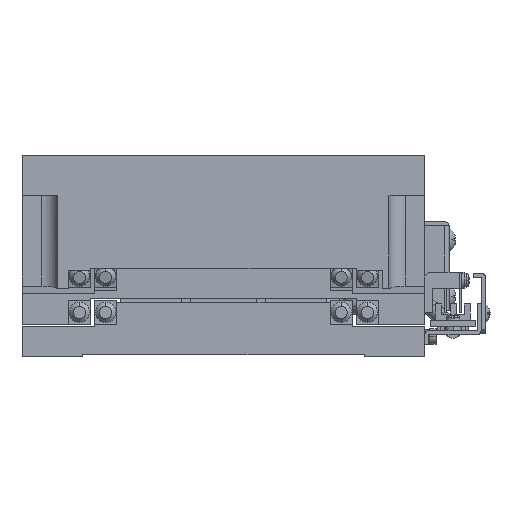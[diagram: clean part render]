
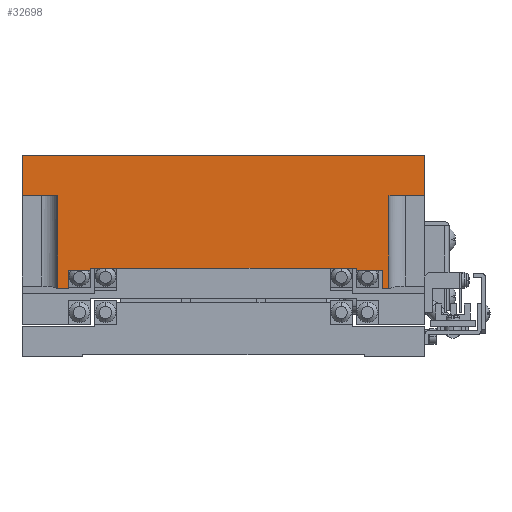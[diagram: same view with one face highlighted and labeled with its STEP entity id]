
A CAD part, left-side view. The second image highlights one B-rep face of the part: STEP entity #32698.
In plain terms, the highlighted planar face has unit normal (-1, 0, 0) as drawn and (1, 0, 0) by its records, which use the part's own axes.
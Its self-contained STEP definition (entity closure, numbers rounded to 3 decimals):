
#143 = VERTEX_POINT ( 'NONE', #65028 ) ;
#205 = LINE ( 'NONE', #43105, #29848 ) ;
#793 = ORIENTED_EDGE ( 'NONE', *, *, #67319, .T. ) ;
#835 = VECTOR ( 'NONE', #66033, 1000. ) ;
#1353 = CARTESIAN_POINT ( 'NONE',  ( 240.291, -72.774, 52.015 ) ) ;
#1777 = VERTEX_POINT ( 'NONE', #22031 ) ;
#2938 = VECTOR ( 'NONE', #28001, 1000. ) ;
#3276 = LINE ( 'NONE', #25787, #28404 ) ;
#3485 = LINE ( 'NONE', #61216, #835 ) ;
#4519 = CARTESIAN_POINT ( 'NONE',  ( 240.291, -66.274, 80. ) ) ;
#5428 = CARTESIAN_POINT ( 'NONE',  ( 240.291, -64.674, 47. ) ) ;
#5995 = ORIENTED_EDGE ( 'NONE', *, *, #62984, .F. ) ;
#7749 = EDGE_CURVE ( 'NONE', #19167, #25209, #3485, .T. ) ;
#8198 = VERTEX_POINT ( 'NONE', #24799 ) ;
#9121 = CARTESIAN_POINT ( 'NONE',  ( 240.291, -144.274, 51.5 ) ) ;
#9239 = EDGE_CURVE ( 'NONE', #8198, #38169, #3276, .T. ) ;
#10112 = LINE ( 'NONE', #16260, #60396 ) ;
#10698 = DIRECTION ( 'NONE',  ( 0., 0., -1. ) ) ;
#11026 = CARTESIAN_POINT ( 'NONE',  ( 240.291, -155.774, 70. ) ) ;
#11543 = DIRECTION ( 'NONE',  ( 0., -1., 0. ) ) ;
#11805 = EDGE_CURVE ( 'NONE', #37502, #34842, #31894, .T. ) ;
#13470 = ORIENTED_EDGE ( 'NONE', *, *, #28825, .T. ) ;
#14300 = VECTOR ( 'NONE', #11543, 1000. ) ;
#14377 = LINE ( 'NONE', #14939, #47529 ) ;
#14526 = CARTESIAN_POINT ( 'NONE',  ( 240.291, -155.774, 80. ) ) ;
#14939 = CARTESIAN_POINT ( 'NONE',  ( 240.291, -72.774, 80. ) ) ;
#15190 = EDGE_CURVE ( 'NONE', #60887, #143, #14377, .T. ) ;
#15625 = EDGE_CURVE ( 'NONE', #23488, #47786, #46577, .T. ) ;
#16051 = VERTEX_POINT ( 'NONE', #39660 ) ;
#16260 = CARTESIAN_POINT ( 'NONE',  ( 240.291, -72.774, 51.5 ) ) ;
#16584 = PLANE ( 'NONE',  #32151 ) ;
#19167 = VERTEX_POINT ( 'NONE', #9121 ) ;
#19510 = DIRECTION ( 'NONE',  ( 0., 1., 0. ) ) ;
#20262 = CARTESIAN_POINT ( 'NONE',  ( 240.291, -55.774, 70. ) ) ;
#20544 = VECTOR ( 'NONE', #34691, 1000. ) ;
#20604 = EDGE_CURVE ( 'NONE', #38169, #16051, #57741, .T. ) ;
#20880 = VECTOR ( 'NONE', #58767, 1000. ) ;
#21315 = DIRECTION ( 'NONE',  ( 1., 0., 0. ) ) ;
#22031 = CARTESIAN_POINT ( 'NONE',  ( 240.291, -66.274, 51.5 ) ) ;
#22571 = VECTOR ( 'NONE', #59518, 1000. ) ;
#23026 = CARTESIAN_POINT ( 'NONE',  ( 240.291, -146.874, 47. ) ) ;
#23488 = VERTEX_POINT ( 'NONE', #23026 ) ;
#24056 = VECTOR ( 'NONE', #59945, 1000. ) ;
#24799 = CARTESIAN_POINT ( 'NONE',  ( 240.291, -66.274, 47. ) ) ;
#25209 = VERTEX_POINT ( 'NONE', #70015 ) ;
#25787 = CARTESIAN_POINT ( 'NONE',  ( 240.291, -66.274, 47. ) ) ;
#26966 = DIRECTION ( 'NONE',  ( 0., 0., -1. ) ) ;
#28001 = DIRECTION ( 'NONE',  ( 0., 0., 1. ) ) ;
#28253 = ORIENTED_EDGE ( 'NONE', *, *, #62068, .F. ) ;
#28396 = VECTOR ( 'NONE', #43945, 1000. ) ;
#28404 = VECTOR ( 'NONE', #19510, 1000. ) ;
#28825 = EDGE_CURVE ( 'NONE', #67056, #37502, #58195, .T. ) ;
#29848 = VECTOR ( 'NONE', #54939, 1000. ) ;
#30019 = EDGE_CURVE ( 'NONE', #46675, #25209, #60558, .T. ) ;
#31085 = LINE ( 'NONE', #56524, #28396 ) ;
#31378 = EDGE_CURVE ( 'NONE', #19167, #47786, #205, .T. ) ;
#31723 = LINE ( 'NONE', #35460, #20880 ) ;
#31894 = LINE ( 'NONE', #61747, #57938 ) ;
#32151 = AXIS2_PLACEMENT_3D ( 'NONE', #4519, #21315, #73533 ) ;
#32698 = ADVANCED_FACE ( 'NONE', ( #64649 ), #16584, .T. ) ;
#34426 = CARTESIAN_POINT ( 'NONE',  ( 240.291, -144.274, 47. ) ) ;
#34691 = DIRECTION ( 'NONE',  ( 0., 0., 1. ) ) ;
#34842 = VERTEX_POINT ( 'NONE', #51234 ) ;
#35460 = CARTESIAN_POINT ( 'NONE',  ( 240.291, -138.774, 52.015 ) ) ;
#35573 = CARTESIAN_POINT ( 'NONE',  ( 240.291, -138.774, 52.015 ) ) ;
#36776 = LINE ( 'NONE', #63492, #14300 ) ;
#36959 = ORIENTED_EDGE ( 'NONE', *, *, #41577, .T. ) ;
#37134 = CARTESIAN_POINT ( 'NONE',  ( 240.291, -155.774, 80. ) ) ;
#37502 = VERTEX_POINT ( 'NONE', #11026 ) ;
#38169 = VERTEX_POINT ( 'NONE', #5428 ) ;
#38660 = ORIENTED_EDGE ( 'NONE', *, *, #31378, .F. ) ;
#38947 = CARTESIAN_POINT ( 'NONE',  ( 240.291, -66.274, 80. ) ) ;
#39660 = CARTESIAN_POINT ( 'NONE',  ( 240.291, -64.674, 70. ) ) ;
#39975 = ORIENTED_EDGE ( 'NONE', *, *, #30019, .F. ) ;
#40804 = VECTOR ( 'NONE', #10698, 1000. ) ;
#41333 = EDGE_LOOP ( 'NONE', ( #65761, #64889, #5995, #13470, #56850, #28253, #49122, #38660, #66824, #39975, #36959, #55224, #43659, #793, #59777, #50926 ) ) ;
#41577 = EDGE_CURVE ( 'NONE', #46675, #60887, #31723, .T. ) ;
#42885 = VECTOR ( 'NONE', #61543, 1000. ) ;
#43105 = CARTESIAN_POINT ( 'NONE',  ( 240.291, -144.274, 80. ) ) ;
#43659 = ORIENTED_EDGE ( 'NONE', *, *, #46478, .T. ) ;
#43897 = EDGE_CURVE ( 'NONE', #45839, #48007, #31085, .T. ) ;
#43945 = DIRECTION ( 'NONE',  ( 0., 0., -1. ) ) ;
#45839 = VERTEX_POINT ( 'NONE', #49327 ) ;
#46478 = EDGE_CURVE ( 'NONE', #143, #1777, #10112, .T. ) ;
#46577 = LINE ( 'NONE', #47212, #65513 ) ;
#46675 = VERTEX_POINT ( 'NONE', #35573 ) ;
#47212 = CARTESIAN_POINT ( 'NONE',  ( 240.291, -155.774, 47. ) ) ;
#47529 = VECTOR ( 'NONE', #26966, 1000. ) ;
#47786 = VERTEX_POINT ( 'NONE', #34426 ) ;
#48007 = VERTEX_POINT ( 'NONE', #20262 ) ;
#49122 = ORIENTED_EDGE ( 'NONE', *, *, #15625, .T. ) ;
#49327 = CARTESIAN_POINT ( 'NONE',  ( 240.291, -55.774, 80. ) ) ;
#50926 = ORIENTED_EDGE ( 'NONE', *, *, #20604, .T. ) ;
#50954 = LINE ( 'NONE', #38947, #42885 ) ;
#51073 = CARTESIAN_POINT ( 'NONE',  ( 240.291, -64.674, 47. ) ) ;
#51234 = CARTESIAN_POINT ( 'NONE',  ( 240.291, -146.874, 70. ) ) ;
#51262 = EDGE_CURVE ( 'NONE', #48007, #16051, #36776, .T. ) ;
#54939 = DIRECTION ( 'NONE',  ( 0., 0., -1. ) ) ;
#55224 = ORIENTED_EDGE ( 'NONE', *, *, #15190, .T. ) ;
#56019 = CARTESIAN_POINT ( 'NONE',  ( 240.291, -146.874, 47. ) ) ;
#56524 = CARTESIAN_POINT ( 'NONE',  ( 240.291, -55.774, 80. ) ) ;
#56850 = ORIENTED_EDGE ( 'NONE', *, *, #11805, .T. ) ;
#57741 = LINE ( 'NONE', #51073, #2938 ) ;
#57938 = VECTOR ( 'NONE', #61990, 1000. ) ;
#58195 = LINE ( 'NONE', #37134, #24056 ) ;
#58767 = DIRECTION ( 'NONE',  ( 0., 1., 0. ) ) ;
#59518 = DIRECTION ( 'NONE',  ( 0., 0., -1. ) ) ;
#59768 = CARTESIAN_POINT ( 'NONE',  ( 240.291, -66.274, 80. ) ) ;
#59777 = ORIENTED_EDGE ( 'NONE', *, *, #9239, .T. ) ;
#59945 = DIRECTION ( 'NONE',  ( 0., 0., -1. ) ) ;
#60396 = VECTOR ( 'NONE', #67960, 1000. ) ;
#60558 = LINE ( 'NONE', #67200, #40804 ) ;
#60887 = VERTEX_POINT ( 'NONE', #1353 ) ;
#61216 = CARTESIAN_POINT ( 'NONE',  ( 240.291, -144.274, 51.5 ) ) ;
#61543 = DIRECTION ( 'NONE',  ( 0., 1., 0. ) ) ;
#61747 = CARTESIAN_POINT ( 'NONE',  ( 240.291, -155.774, 70. ) ) ;
#61903 = LINE ( 'NONE', #56019, #20544 ) ;
#61990 = DIRECTION ( 'NONE',  ( 0., 1., 0. ) ) ;
#62068 = EDGE_CURVE ( 'NONE', #23488, #34842, #61903, .T. ) ;
#62984 = EDGE_CURVE ( 'NONE', #67056, #45839, #50954, .T. ) ;
#63005 = LINE ( 'NONE', #59768, #22571 ) ;
#63492 = CARTESIAN_POINT ( 'NONE',  ( 240.291, -55.774, 70. ) ) ;
#64649 = FACE_OUTER_BOUND ( 'NONE', #41333, .T. ) ;
#64889 = ORIENTED_EDGE ( 'NONE', *, *, #43897, .F. ) ;
#65028 = CARTESIAN_POINT ( 'NONE',  ( 240.291, -72.774, 51.5 ) ) ;
#65060 = DIRECTION ( 'NONE',  ( 0., 1., 0. ) ) ;
#65513 = VECTOR ( 'NONE', #65060, 1000. ) ;
#65761 = ORIENTED_EDGE ( 'NONE', *, *, #51262, .F. ) ;
#66033 = DIRECTION ( 'NONE',  ( 0., 1., 0. ) ) ;
#66824 = ORIENTED_EDGE ( 'NONE', *, *, #7749, .T. ) ;
#67056 = VERTEX_POINT ( 'NONE', #14526 ) ;
#67200 = CARTESIAN_POINT ( 'NONE',  ( 240.291, -138.774, 80. ) ) ;
#67319 = EDGE_CURVE ( 'NONE', #1777, #8198, #63005, .T. ) ;
#67960 = DIRECTION ( 'NONE',  ( 0., 1., 0. ) ) ;
#70015 = CARTESIAN_POINT ( 'NONE',  ( 240.291, -138.774, 51.5 ) ) ;
#73533 = DIRECTION ( 'NONE',  ( 0., 1., 0. ) ) ;
